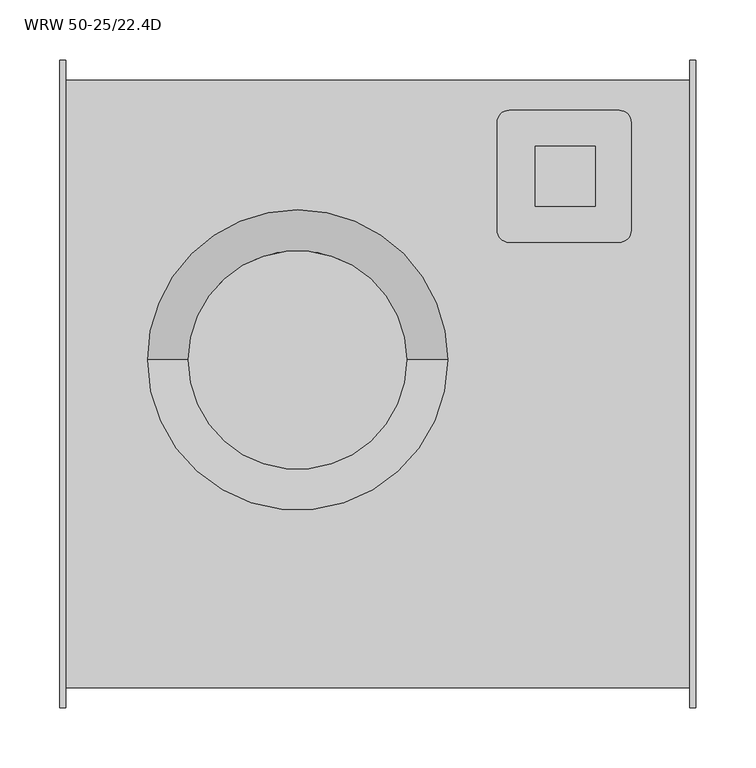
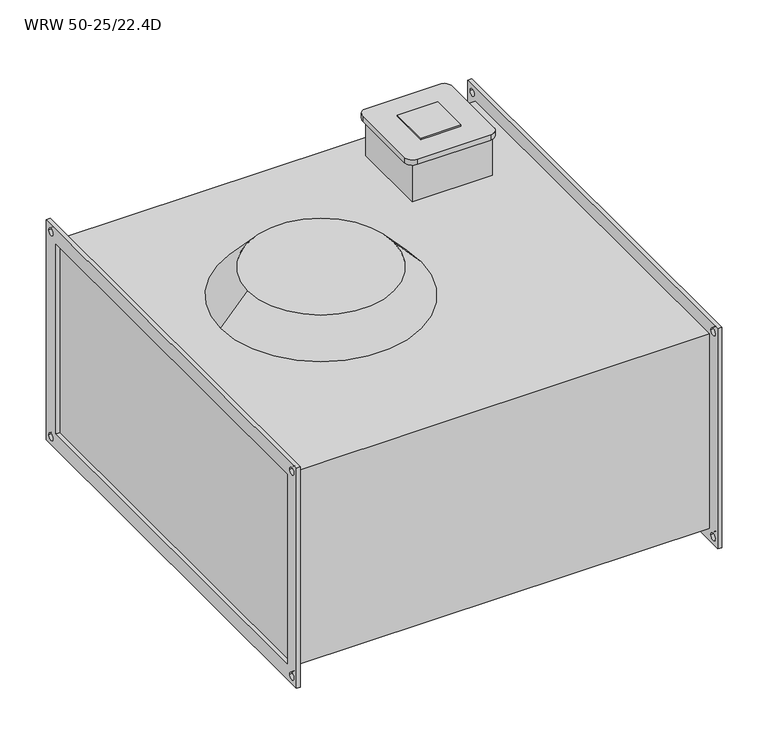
"""IFC4 building model written with IfcOpenShell, lengths in millimetres: proxy geometry, KORF_Вентилятор_WRW : WRW 50-25/22.4D."""

from ifc_helpers import new_model, si_unit, point, frame, frame_2d, origin, place, context, project, spatial, polyline, circle_curve, trimmed, segment, composite_curve, outline, extrude, source, transform, mapped, element, save
from ifc_brep_helpers import plane_surface, cylinder_surface, revolved_surface, advanced_brep


def wrw_50_25_22_4d_2cb7c56a(model_context):
    return source(origin(), model_context, "Body", "SolidModel", [
        extrude(outline(polyline([(396.0, 148.0), (396.0, 198.0), (446.0, 198.0), (446.0, 148.0), (396.0, 148.0)])), frame((0.0, 0.0, 186.0), z_axis=(0.0, 0.0, 1.0), x_axis=(1.0, 0.0, 0.0)), (0.0, 0.0, 1.0), 2.0),
        advanced_brep(
        [(466.0, 228.0, 186.0), (374.318163, 228.0, 186.0), (364.318163, 218.0, 186.0), (364.318163, 128.0, 186.0), (374.318163, 118.0, 186.0), (466.0, 118.0, 186.0), (476.0, 128.0, 186.0), (476.0, 218.0, 186.0), (466.0, 228.0, 179.0), (476.0, 218.0, 179.0), (476.0, 128.0, 179.0), (466.0, 118.0, 179.0), (374.318163, 118.0, 179.0), (364.318163, 128.0, 179.0), (364.318163, 218.0, 179.0), (374.318163, 228.0, 179.0), (471.0, 223.0, 179.0), (371.0, 223.0, 179.0), (371.0, 123.0, 179.0), (471.0, 123.0, 179.0), (471.0, 223.0, 128.0), (471.0, 123.0, 128.0), (371.0, 123.0, 128.0), (371.0, 223.0, 128.0)],
        [
            (0, 1),
            (1, 2, circle_curve(frame((374.318163, 218.0, 186.0), z_axis=(0.0, 0.0, 1.0), x_axis=(1.0, 0.0, 0.0)), 10.0)),
            (2, 3),
            (3, 4, circle_curve(frame((374.318163, 128.0, 186.0), z_axis=(0.0, 0.0, 1.0), x_axis=(1.0, 0.0, 0.0)), 10.0)),
            (4, 5),
            (5, 6, circle_curve(frame((466.0, 128.0, 186.0), z_axis=(0.0, 0.0, 1.0), x_axis=(1.0, 0.0, 0.0)), 10.0)),
            (6, 7),
            (7, 0, circle_curve(frame((466.0, 218.0, 186.0), z_axis=(0.0, 0.0, 1.0), x_axis=(1.0, 0.0, 0.0)), 10.0)),
            (8, 9, circle_curve(frame((466.0, 218.0, 179.0), z_axis=(0.0, 0.0, -1.0), x_axis=(1.0, 0.0, 0.0)), 10.0)),
            (9, 10),
            (10, 11, circle_curve(frame((466.0, 128.0, 179.0), z_axis=(0.0, 0.0, -1.0), x_axis=(1.0, 0.0, 0.0)), 10.0)),
            (11, 12),
            (12, 13, circle_curve(frame((374.318163, 128.0, 179.0), z_axis=(0.0, 0.0, -1.0), x_axis=(1.0, 0.0, 0.0)), 10.0)),
            (13, 14),
            (14, 15, circle_curve(frame((374.318163, 218.0, 179.0), z_axis=(0.0, 0.0, -1.0), x_axis=(1.0, 0.0, 0.0)), 10.0)),
            (15, 8),
            (16, 17),
            (17, 18),
            (18, 19),
            (19, 16),
            (0, 8),
            (15, 1),
            (14, 2),
            (13, 3),
            (12, 4),
            (11, 5),
            (10, 6),
            (9, 7),
            (20, 21),
            (21, 22),
            (22, 23),
            (23, 20),
            (23, 17),
            (16, 20),
            (22, 18),
            (21, 19),
        ],
        [
            plane_surface(frame((374.318163, 228.0, 186.0), z_axis=(0.0, 0.0, 1.0), x_axis=(-1.0, 0.0, 0.0))),
            plane_surface(frame((374.318163, 228.0, 179.0), z_axis=(0.0, 0.0, -1.0), x_axis=(1.0, 0.0, 0.0))),
            plane_surface(frame((466.0, 228.0, 186.0), z_axis=(0.0, 1.0, 0.0), x_axis=(0.0, 0.0, -1.0))),
            cylinder_surface(frame((374.318163, 218.0, 179.0), z_axis=(0.0, 0.0, 1.0), x_axis=(1.0, 0.0, 0.0)), 10.0),
            plane_surface(frame((364.318163, 218.0, 186.0), z_axis=(-1.0, 0.0, 0.0), x_axis=(0.0, 0.0, -1.0))),
            cylinder_surface(frame((374.318163, 128.0, 179.0), z_axis=(0.0, 0.0, 1.0), x_axis=(1.0, 0.0, 0.0)), 10.0),
            plane_surface(frame((374.318163, 118.0, 186.0), z_axis=(0.0, -1.0, 0.0), x_axis=(0.0, 0.0, -1.0))),
            cylinder_surface(frame((466.0, 128.0, 179.0), z_axis=(0.0, 0.0, 1.0), x_axis=(1.0, 0.0, 0.0)), 10.0),
            plane_surface(frame((476.0, 128.0, 186.0), z_axis=(1.0, 0.0, 0.0), x_axis=(0.0, 0.0, -1.0))),
            cylinder_surface(frame((466.0, 218.0, 179.0), z_axis=(0.0, 0.0, 1.0), x_axis=(1.0, 0.0, 0.0)), 10.0),
            plane_surface(frame((371.0, 223.0, 128.0), z_axis=(0.0, 0.0, -1.0), x_axis=(1.0, 0.0, 0.0))),
            plane_surface(frame((471.0, 223.0, 186.0), z_axis=(0.0, 1.0, 0.0), x_axis=(0.0, 0.0, -1.0))),
            plane_surface(frame((371.0, 223.0, 186.0), z_axis=(-1.0, 0.0, 0.0), x_axis=(0.0, 0.0, -1.0))),
            plane_surface(frame((371.0, 123.0, 186.0), z_axis=(0.0, -1.0, 0.0), x_axis=(0.0, 0.0, -1.0))),
            plane_surface(frame((471.0, 123.0, 186.0), z_axis=(1.0, 0.0, 0.0), x_axis=(0.0, 0.0, -1.0))),
        ],
        [
            (0, [[1, 2, 3, 4, 5, 6, 7, 8]]),
            (1, [[9, 10, 11, 12, 13, 14, 15, 16], [17, 18, 19, 20]]),
            (2, [[-1, 21, -16, 22]]),
            (3, [[-2, -22, -15, 23]]),
            (4, [[-3, -23, -14, 24]]),
            (5, [[-4, -24, -13, 25]]),
            (6, [[-5, -25, -12, 26]]),
            (7, [[-6, -26, -11, 27]]),
            (8, [[-7, -27, -10, 28]]),
            (9, [[-8, -28, -9, -21]]),
            (10, [[29, 30, 31, 32]]),
            (11, [[-32, 33, -17, 34]]),
            (12, [[-31, 35, -18, -33]]),
            (13, [[-30, 36, -19, -35]]),
            (14, [[-29, -34, -20, -36]]),
        ],
    ),
        advanced_brep(
        [(73.0, 20.0, 128.0), (323.0, 20.0, 128.0), (107.0, 20.0, 165.5), (289.0, 20.0, 165.5)],
        [
            (0, 1, circle_curve(frame((198.0, 20.0, 128.0), z_axis=(0.0, 0.0, -1.0), x_axis=(-1.0, 0.0, 0.0)), 125.0)),
            (1, 0, circle_curve(frame((198.0, 20.0, 128.0), z_axis=(0.0, 0.0, -1.0), x_axis=(1.0, 0.0, 0.0)), 125.0)),
            (2, 3, circle_curve(frame((198.0, 20.0, 165.5), z_axis=(0.0, 0.0, 1.0), x_axis=(1.0, 0.0, 0.0)), 91.0)),
            (3, 2, circle_curve(frame((198.0, 20.0, 165.5), z_axis=(0.0, 0.0, 1.0), x_axis=(-1.0, 0.0, 0.0)), 91.0)),
            (2, 0),
            (1, 3),
        ],
        [
            plane_surface(frame((198.0, 20.0, 128.0), z_axis=(0.0, 0.0, -1.0), x_axis=(0.0, -1.0, 0.0))),
            plane_surface(frame((198.0, 20.0, 165.5), z_axis=(0.0, 0.0, 1.0), x_axis=(0.0, -1.0, 0.0))),
            revolved_surface(polyline([(106.99999998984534, 20.0, 165.5), (73.0, 20.0, 128.0)]), (198.0, 20.0, 265.8676471), (0.0, 0.0, -1.0)),
            revolved_surface(polyline([(289.0000000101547, 20.0, 165.5), (323.0, 20.0, 128.0)]), (198.0, 20.0, 265.8676471), (0.0, 0.0, -1.0)),
        ],
        [
            (0, [[1, 2]]),
            (1, [[3, 4]]),
            (2, [[-3, 5, -2, 6]]),
            (3, [[-4, -6, -1, -5]]),
        ],
    ),
        extrude(outline(polyline([(-270.0, 145.0), (270.0, 145.0), (270.0, -145.0), (-270.0, -145.0), (-270.0, 145.0)]), holes=[polyline([(-250.0, 125.0), (-250.0, -125.0), (250.0, -125.0), (250.0, 125.0), (-250.0, 125.0)]), composite_curve([segment(trimmed(circle_curve(frame_2d((260.0, 135.0)), 4.5), [point((255.5, 135.0))], [point((264.5, 135.0))], True, "CARTESIAN"), True, "CONTINUOUS"), segment(trimmed(circle_curve(frame_2d((260.0, 135.0)), 4.5), [point((264.5, 135.0))], [point((255.5, 135.0))], True, "CARTESIAN"), True, "CONTINUOUS")], self_intersect=False), composite_curve([segment(trimmed(circle_curve(frame_2d((-260.0, 135.0)), 4.5), [point((-264.5, 135.0))], [point((-255.5, 135.0))], True, "CARTESIAN"), True, "CONTINUOUS"), segment(trimmed(circle_curve(frame_2d((-260.0, 135.0)), 4.5), [point((-255.5, 135.0))], [point((-264.5, 135.0))], True, "CARTESIAN"), True, "CONTINUOUS")], self_intersect=False), composite_curve([segment(trimmed(circle_curve(frame_2d((-260.0, -135.0)), 4.5), [point((-264.5, -135.0))], [point((-255.5, -135.0))], True, "CARTESIAN"), True, "CONTINUOUS"), segment(trimmed(circle_curve(frame_2d((-260.0, -135.0)), 4.5), [point((-255.5, -135.0))], [point((-264.5, -135.0))], True, "CARTESIAN"), True, "CONTINUOUS")], self_intersect=False), composite_curve([segment(trimmed(circle_curve(frame_2d((260.0, -135.0)), 4.5), [point((255.5, -135.0))], [point((264.5, -135.0))], True, "CARTESIAN"), True, "CONTINUOUS"), segment(trimmed(circle_curve(frame_2d((260.0, -135.0)), 4.5), [point((264.5, -135.0))], [point((255.5, -135.0))], True, "CARTESIAN"), True, "CONTINUOUS")], self_intersect=False)]), frame((525.0, 0.0, 0.0), z_axis=(1.0, 0.0, 0.0), x_axis=(0.0, 1.0, 0.0)), (0.0, 0.0, 1.0), 5.0),
        extrude(outline(polyline([(-270.0, 145.0), (270.0, 145.0), (270.0, -145.0), (-270.0, -145.0), (-270.0, 145.0)]), holes=[polyline([(-250.0, 125.0), (-250.0, -125.0), (250.0, -125.0), (250.0, 125.0), (-250.0, 125.0)]), composite_curve([segment(trimmed(circle_curve(frame_2d((260.0, 135.0)), 4.5), [point((255.5, 135.0))], [point((264.5, 135.0))], True, "CARTESIAN"), True, "CONTINUOUS"), segment(trimmed(circle_curve(frame_2d((260.0, 135.0)), 4.5), [point((264.5, 135.0))], [point((255.5, 135.0))], True, "CARTESIAN"), True, "CONTINUOUS")], self_intersect=False), composite_curve([segment(trimmed(circle_curve(frame_2d((-260.0, 135.0)), 4.5), [point((-264.5, 135.0))], [point((-255.5, 135.0))], True, "CARTESIAN"), True, "CONTINUOUS"), segment(trimmed(circle_curve(frame_2d((-260.0, 135.0)), 4.5), [point((-255.5, 135.0))], [point((-264.5, 135.0))], True, "CARTESIAN"), True, "CONTINUOUS")], self_intersect=False), composite_curve([segment(trimmed(circle_curve(frame_2d((-260.0, -135.0)), 4.5), [point((-264.5, -135.0))], [point((-255.5, -135.0))], True, "CARTESIAN"), True, "CONTINUOUS"), segment(trimmed(circle_curve(frame_2d((-260.0, -135.0)), 4.5), [point((-255.5, -135.0))], [point((-264.5, -135.0))], True, "CARTESIAN"), True, "CONTINUOUS")], self_intersect=False), composite_curve([segment(trimmed(circle_curve(frame_2d((260.0, -135.0)), 4.5), [point((255.5, -135.0))], [point((264.5, -135.0))], True, "CARTESIAN"), True, "CONTINUOUS"), segment(trimmed(circle_curve(frame_2d((260.0, -135.0)), 4.5), [point((264.5, -135.0))], [point((255.5, -135.0))], True, "CARTESIAN"), True, "CONTINUOUS")], self_intersect=False)]), frame((0.0, 0.0, 0.0), z_axis=(1.0, 0.0, 0.0), x_axis=(0.0, 1.0, 0.0)), (0.0, 0.0, 1.0), 5.0),
        extrude(outline(polyline([(525.0, 253.0), (525.0, -253.0), (5.0, -253.0), (5.0, 253.0), (525.0, 253.0)])), frame((0.0, 0.0, -128.0), z_axis=(0.0, 0.0, 1.0), x_axis=(1.0, 0.0, 0.0)), (0.0, 0.0, 1.0), 256.0),
    ])


if __name__ == "__main__":
    model = new_model("IFC4")
    model_context = context("Model", 3, world=origin())
    ifc_project = project(units=[si_unit("LENGTHUNIT", "METRE", prefix="MILLI")], contexts=[model_context])
    site = spatial("IfcSite", under=ifc_project)
    building = spatial("IfcBuilding", under=site)
    placement = place(None, origin())
    wrw_50_25_22_4d_shape = wrw_50_25_22_4d_2cb7c56a(model_context)
    element("IfcBuildingElementProxy", 1, Name="KORF_Вентилятор_WRW : WRW 50-25/22.4D", ObjectType="KORF_Вентилятор_WRW : WRW 50-25/22.4D", at=placement, inside=building, context=model_context, shape_type="MappedRepresentation", body=[
        mapped(wrw_50_25_22_4d_shape, transform((0.0, 0.0, 0.0), x_axis=(1.0, 0.0, 0.0), y_axis=(0.0, 1.0, 0.0), z_axis=(0.0, 0.0, 1.0))),
    ])
    save(model, "model.ifc")
